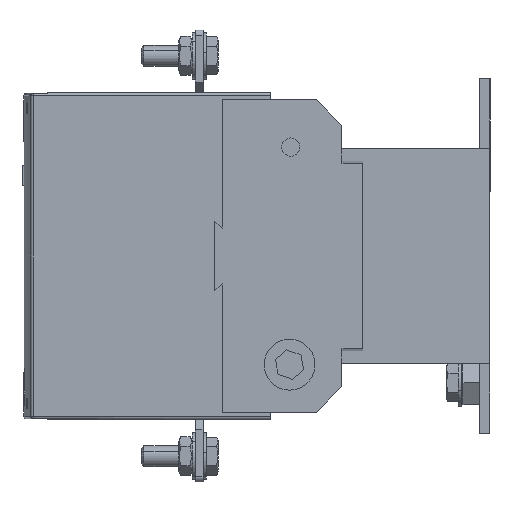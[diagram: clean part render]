
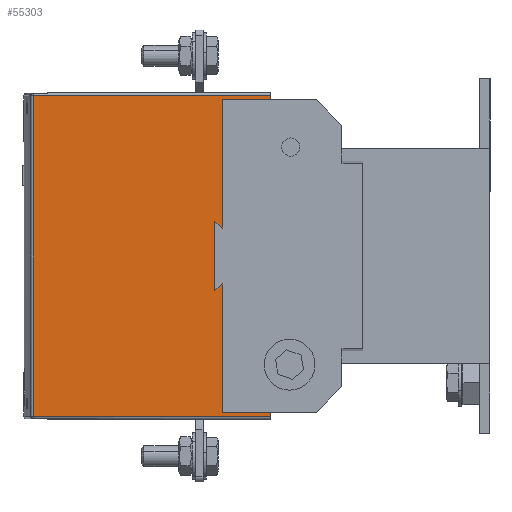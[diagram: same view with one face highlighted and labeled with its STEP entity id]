
A CAD part, left-side view. The second image highlights one B-rep face of the part: STEP entity #55303.
In plain terms, the highlighted planar face has unit normal (-1, 0.003, 0).
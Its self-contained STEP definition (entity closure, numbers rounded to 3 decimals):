
#277 = FACE_OUTER_BOUND ( 'NONE', #29804, .T. ) ;
#584 = CARTESIAN_POINT ( 'NONE',  ( -55.2, 84.5, -158.046 ) ) ;
#972 = ORIENTED_EDGE ( 'NONE', *, *, #49217, .T. ) ;
#1633 = AXIS2_PLACEMENT_3D ( 'NONE', #42278, #14927, #46844 ) ;
#2223 = DIRECTION ( 'NONE',  ( 0.003, 1., -0.003 ) ) ;
#2263 = VERTEX_POINT ( 'NONE', #54009 ) ;
#2699 = LINE ( 'NONE', #17885, #49844 ) ;
#3848 = CARTESIAN_POINT ( 'NONE',  ( -55.2, 84.5, -158.046 ) ) ;
#6440 = CARTESIAN_POINT ( 'NONE',  ( -55.2, 84.5, 60.25 ) ) ;
#6592 = CARTESIAN_POINT ( 'NONE',  ( -54.959, 175.898, -62.758 ) ) ;
#7495 = EDGE_CURVE ( 'NONE', #47947, #49665, #9776, .T. ) ;
#7936 = VERTEX_POINT ( 'NONE', #6440 ) ;
#9183 = VECTOR ( 'NONE', #14411, 1000. ) ;
#9776 = LINE ( 'NONE', #6592, #32656 ) ;
#10619 = LINE ( 'NONE', #584, #9183 ) ;
#11079 = LINE ( 'NONE', #58927, #32539 ) ;
#11421 = CARTESIAN_POINT ( 'NONE',  ( -55.42, 0.722, 62.219 ) ) ;
#14260 = VERTEX_POINT ( 'NONE', #55870 ) ;
#14405 = CARTESIAN_POINT ( 'NONE',  ( -54.959, 175.898, 61.761 ) ) ;
#14411 = DIRECTION ( 'NONE',  ( 0., 0., 1. ) ) ;
#14927 = DIRECTION ( 'NONE',  ( -1., 0.003, 0. ) ) ;
#17885 = CARTESIAN_POINT ( 'NONE',  ( -55.2, 84.5, -158.046 ) ) ;
#20328 = LINE ( 'NONE', #3848, #44585 ) ;
#22470 = DIRECTION ( 'NONE',  ( 0., 0., 1. ) ) ;
#23928 = ORIENTED_EDGE ( 'NONE', *, *, #25705, .T. ) ;
#25705 = EDGE_CURVE ( 'NONE', #14260, #47947, #53578, .T. ) ;
#27107 = DIRECTION ( 'NONE',  ( -0.003, -1., -0.003 ) ) ;
#29804 = EDGE_LOOP ( 'NONE', ( #58138, #38181, #41012, #972, #43168, #23928 ) ) ;
#32539 = VECTOR ( 'NONE', #27107, 1000. ) ;
#32656 = VECTOR ( 'NONE', #43103, 1000. ) ;
#33114 = PLANE ( 'NONE',  #1633 ) ;
#35840 = DIRECTION ( 'NONE',  ( 0., 0., 1. ) ) ;
#35929 = CARTESIAN_POINT ( 'NONE',  ( -54.959, 175.898, -61.761 ) ) ;
#36621 = EDGE_CURVE ( 'NONE', #7936, #14260, #20328, .T. ) ;
#38181 = ORIENTED_EDGE ( 'NONE', *, *, #54548, .T. ) ;
#40097 = VECTOR ( 'NONE', #2223, 1000. ) ;
#41012 = ORIENTED_EDGE ( 'NONE', *, *, #44856, .T. ) ;
#42278 = CARTESIAN_POINT ( 'NONE',  ( -55.422, 0.146, -158.046 ) ) ;
#43103 = DIRECTION ( 'NONE',  ( 0., 0., -1. ) ) ;
#43168 = ORIENTED_EDGE ( 'NONE', *, *, #36621, .T. ) ;
#44585 = VECTOR ( 'NONE', #35840, 1000. ) ;
#44856 = EDGE_CURVE ( 'NONE', #56858, #2263, #2699, .T. ) ;
#46844 = DIRECTION ( 'NONE',  ( -0.003, -1., 0. ) ) ;
#47947 = VERTEX_POINT ( 'NONE', #14405 ) ;
#49217 = EDGE_CURVE ( 'NONE', #2263, #7936, #10619, .T. ) ;
#49665 = VERTEX_POINT ( 'NONE', #35929 ) ;
#49844 = VECTOR ( 'NONE', #22470, 1000. ) ;
#53578 = LINE ( 'NONE', #11421, #40097 ) ;
#54009 = CARTESIAN_POINT ( 'NONE',  ( -55.2, 84.5, -60.25 ) ) ;
#54548 = EDGE_CURVE ( 'NONE', #49665, #56858, #11079, .T. ) ;
#55303 = ADVANCED_FACE ( 'NONE', ( #277 ), #33114, .T. ) ;
#55870 = CARTESIAN_POINT ( 'NONE',  ( -55.2, 84.5, 62. ) ) ;
#56398 = CARTESIAN_POINT ( 'NONE',  ( -55.2, 84.5, -62. ) ) ;
#56858 = VERTEX_POINT ( 'NONE', #56398 ) ;
#58138 = ORIENTED_EDGE ( 'NONE', *, *, #7495, .T. ) ;
#58927 = CARTESIAN_POINT ( 'NONE',  ( -55.423, -0.105, -62.221 ) ) ;
